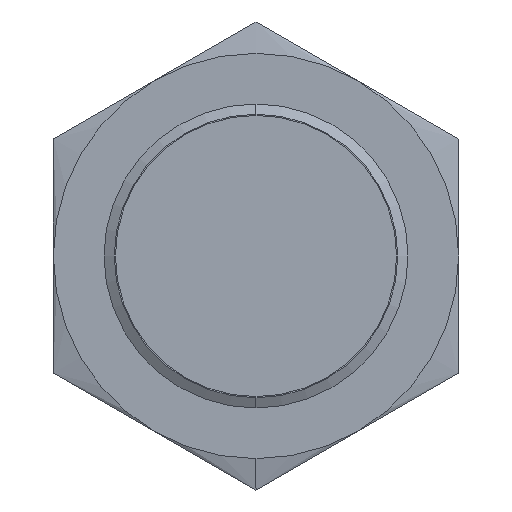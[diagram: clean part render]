
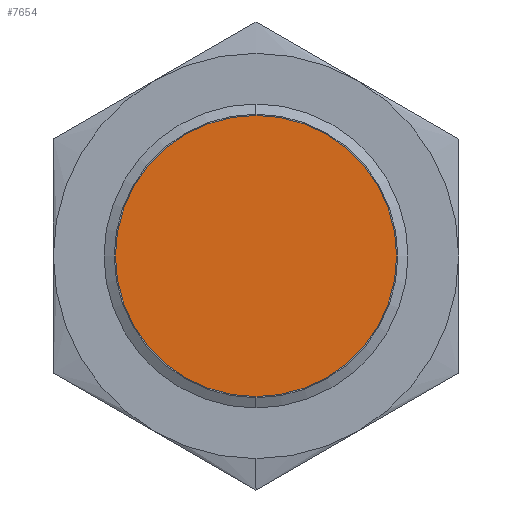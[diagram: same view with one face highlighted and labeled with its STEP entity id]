
A CAD part, left-side view. The second image highlights one B-rep face of the part: STEP entity #7654.
In plain terms, the highlighted planar face has unit normal (-1, 0, 0).
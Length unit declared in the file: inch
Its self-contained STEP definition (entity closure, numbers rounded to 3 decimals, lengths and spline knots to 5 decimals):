
#478 = CIRCLE ( 'NONE', #479, 0.3275 ) ;
#479 = AXIS2_PLACEMENT_3D ( 'NONE', #480, #481, #482 ) ;
#480 = CARTESIAN_POINT ( 'NONE',  ( 7.30468, 8.44799, 0. ) ) ;
#481 = DIRECTION ( 'NONE',  ( 1., 0., 0. ) ) ;
#482 = DIRECTION ( 'NONE',  ( 0., 1., 0. ) ) ;
#2161 = FACE_OUTER_BOUND ( 'NONE', #7399, .T. ) ;
#2162 = PLANE ( 'NONE',  #2163 ) ;
#2163 = AXIS2_PLACEMENT_3D ( 'NONE', #2164, #2165, #2166 ) ;
#2164 = CARTESIAN_POINT ( 'NONE',  ( 7.30468, 8.44799, 0. ) ) ;
#2165 = DIRECTION ( 'NONE',  ( 1., 0., 0. ) ) ;
#2166 = DIRECTION ( 'NONE',  ( 0., 1., 0. ) ) ;
#2653 = CARTESIAN_POINT ( 'NONE',  ( 7.30468, 8.12049, 0. ) ) ;
#2742 = CARTESIAN_POINT ( 'NONE',  ( 7.30468, 8.77549, 0. ) ) ;
#2908 = CIRCLE ( 'NONE', #2909, 0.3275 ) ;
#2909 = AXIS2_PLACEMENT_3D ( 'NONE', #2910, #2911, #2912 ) ;
#2910 = CARTESIAN_POINT ( 'NONE',  ( 7.30468, 8.44799, 0. ) ) ;
#2911 = DIRECTION ( 'NONE',  ( 1., 0., 0. ) ) ;
#2912 = DIRECTION ( 'NONE',  ( 0., 1., 0. ) ) ;
#5871 = EDGE_CURVE ( 'NONE', #8223, #8440, #478, .T. ) ;
#6272 = ORIENTED_EDGE ( 'NONE', *, *, #5871, .F. ) ;
#6827 = ORIENTED_EDGE ( 'NONE', *, *, #8676, .F. ) ;
#7399 = EDGE_LOOP ( 'NONE', ( #6827, #6272 ) ) ;
#7654 = ADVANCED_FACE ( 'NONE', ( #2161 ), #2162, .F. ) ;
#8223 = VERTEX_POINT ( 'NONE', #2653 ) ;
#8440 = VERTEX_POINT ( 'NONE', #2742 ) ;
#8676 = EDGE_CURVE ( 'NONE', #8440, #8223, #2908, .T. ) ;
